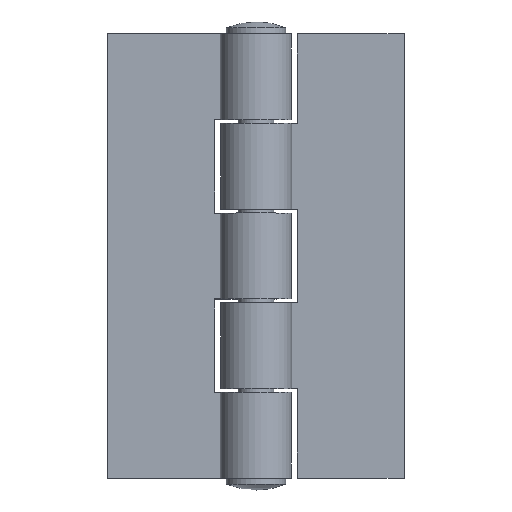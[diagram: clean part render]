
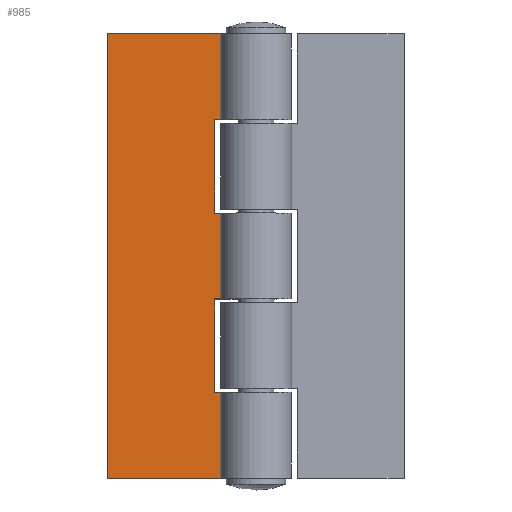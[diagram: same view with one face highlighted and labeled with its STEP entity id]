
A CAD part, top view. The second image highlights one B-rep face of the part: STEP entity #985.
In plain terms, the highlighted planar face has unit normal (0, 0, 1) as drawn and (0, 1, 0) by its records, which use the part's own axes.
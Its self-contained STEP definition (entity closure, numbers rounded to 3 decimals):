
#148=FACE_OUTER_BOUND('',#203,.T.);
#203=EDGE_LOOP('',(#864,#865,#866,#867,#868,#869,#870,#871,#872,#873,#874,
#875));
#264=LINE('',#1537,#356);
#268=LINE('',#1554,#360);
#272=LINE('',#1569,#364);
#274=LINE('',#1574,#366);
#278=LINE('',#1591,#370);
#282=LINE('',#1606,#374);
#284=LINE('',#1610,#376);
#286=LINE('',#1615,#378);
#289=LINE('',#1622,#381);
#307=LINE('',#1669,#399);
#308=LINE('',#1671,#400);
#309=LINE('',#1672,#401);
#356=VECTOR('',#1232,3.127);
#360=VECTOR('',#1246,3.127);
#364=VECTOR('',#1260,15.75);
#366=VECTOR('',#1264,3.127);
#370=VECTOR('',#1278,3.127);
#374=VECTOR('',#1292,15.75);
#376=VECTOR('',#1296,14.5);
#378=VECTOR('',#1302,14.5);
#381=VECTOR('',#1309,14.5);
#399=VECTOR('',#1363,21.127);
#400=VECTOR('',#1364,75.);
#401=VECTOR('',#1365,21.127);
#444=VERTEX_POINT('',#1535);
#445=VERTEX_POINT('',#1536);
#452=VERTEX_POINT('',#1552);
#453=VERTEX_POINT('',#1553);
#460=VERTEX_POINT('',#1572);
#461=VERTEX_POINT('',#1573);
#468=VERTEX_POINT('',#1589);
#469=VERTEX_POINT('',#1590);
#476=VERTEX_POINT('',#1609);
#479=VERTEX_POINT('',#1620);
#490=VERTEX_POINT('',#1668);
#491=VERTEX_POINT('',#1670);
#558=EDGE_CURVE('',#444,#445,#264,.T.);
#566=EDGE_CURVE('',#452,#453,#268,.T.);
#574=EDGE_CURVE('',#453,#444,#272,.T.);
#576=EDGE_CURVE('',#460,#461,#274,.T.);
#584=EDGE_CURVE('',#468,#469,#278,.T.);
#592=EDGE_CURVE('',#469,#460,#282,.T.);
#594=EDGE_CURVE('',#468,#476,#284,.T.);
#597=EDGE_CURVE('',#452,#461,#286,.T.);
#601=EDGE_CURVE('',#479,#445,#289,.T.);
#624=EDGE_CURVE('',#479,#490,#307,.T.);
#625=EDGE_CURVE('',#490,#491,#308,.T.);
#626=EDGE_CURVE('',#491,#476,#309,.T.);
#864=ORIENTED_EDGE('',*,*,#558,.T.);
#865=ORIENTED_EDGE('',*,*,#601,.F.);
#866=ORIENTED_EDGE('',*,*,#624,.T.);
#867=ORIENTED_EDGE('',*,*,#625,.T.);
#868=ORIENTED_EDGE('',*,*,#626,.T.);
#869=ORIENTED_EDGE('',*,*,#594,.F.);
#870=ORIENTED_EDGE('',*,*,#584,.T.);
#871=ORIENTED_EDGE('',*,*,#592,.T.);
#872=ORIENTED_EDGE('',*,*,#576,.T.);
#873=ORIENTED_EDGE('',*,*,#597,.F.);
#874=ORIENTED_EDGE('',*,*,#566,.T.);
#875=ORIENTED_EDGE('',*,*,#574,.T.);
#936=PLANE('',#1084);
#985=ADVANCED_FACE('',(#148),#936,.T.);
#1084=AXIS2_PLACEMENT_3D('',#1667,#1361,#1362);
#1232=DIRECTION('',(1.,0.,0.));
#1246=DIRECTION('',(-1.,0.,0.));
#1260=DIRECTION('',(0.,0.,-1.));
#1264=DIRECTION('',(1.,0.,0.));
#1278=DIRECTION('',(-1.,0.,0.));
#1292=DIRECTION('',(0.,0.,-1.));
#1296=DIRECTION('',(0.,0.,1.));
#1302=DIRECTION('',(0.,0.,1.));
#1309=DIRECTION('',(0.,0.,1.));
#1361=DIRECTION('center_axis',(0.,1.,0.));
#1362=DIRECTION('ref_axis',(0.,0.,1.));
#1363=DIRECTION('',(-1.,0.,0.));
#1364=DIRECTION('',(0.,0.,1.));
#1365=DIRECTION('',(1.,0.,0.));
#1535=CARTESIAN_POINT('',(-7.,-2.,-23.));
#1536=CARTESIAN_POINT('',(-3.873,-2.,-23.));
#1537=CARTESIAN_POINT('',(0.172,-2.,-23.));
#1552=CARTESIAN_POINT('',(-3.873,-2.,-7.25));
#1553=CARTESIAN_POINT('',(-7.,-2.,-7.25));
#1554=CARTESIAN_POINT('',(-6.328,-2.,-7.25));
#1569=CARTESIAN_POINT('',(-7.,-2.,-3.938));
#1572=CARTESIAN_POINT('',(-7.,-2.,7.25));
#1573=CARTESIAN_POINT('',(-3.873,-2.,7.25));
#1574=CARTESIAN_POINT('',(0.172,-2.,7.25));
#1589=CARTESIAN_POINT('',(-3.873,-2.,23.));
#1590=CARTESIAN_POINT('',(-7.,-2.,23.));
#1591=CARTESIAN_POINT('',(-6.328,-2.,23.));
#1606=CARTESIAN_POINT('',(-7.,-2.,11.188));
#1609=CARTESIAN_POINT('',(-3.873,-2.,37.5));
#1610=CARTESIAN_POINT('',(-3.873,-2.,0.));
#1615=CARTESIAN_POINT('',(-3.873,-2.,0.));
#1620=CARTESIAN_POINT('',(-3.873,-2.,-37.5));
#1622=CARTESIAN_POINT('',(-3.873,-2.,0.));
#1667=CARTESIAN_POINT('Origin',(-5.657,-2.,0.));
#1668=CARTESIAN_POINT('',(-25.,-2.,-37.5));
#1669=CARTESIAN_POINT('',(-25.,-2.,-37.5));
#1670=CARTESIAN_POINT('',(-25.,-2.,37.5));
#1671=CARTESIAN_POINT('',(-25.,-2.,0.));
#1672=CARTESIAN_POINT('',(-5.657,-2.,37.5));
